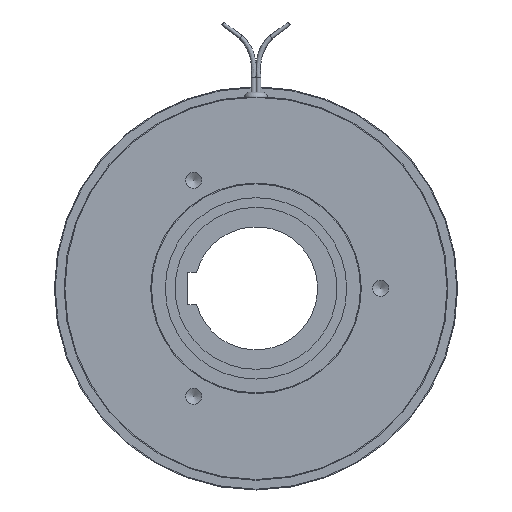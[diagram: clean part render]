
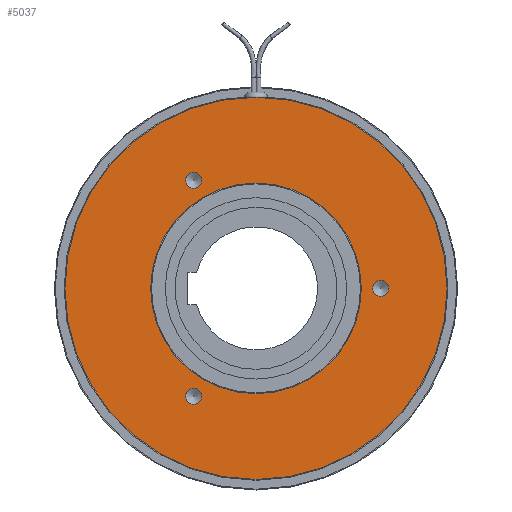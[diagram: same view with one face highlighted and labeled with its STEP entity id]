
A CAD part, left-side view. The second image highlights one B-rep face of the part: STEP entity #5037.
In plain terms, the highlighted planar face has unit normal (-1, 0, 0).
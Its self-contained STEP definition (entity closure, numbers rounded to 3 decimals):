
#315=FACE_BOUND('',#866,.T.);
#316=FACE_BOUND('',#867,.T.);
#317=FACE_BOUND('',#868,.T.);
#318=FACE_BOUND('',#869,.T.);
#383=PLANE('',#5525);
#551=FACE_OUTER_BOUND('',#865,.T.);
#865=EDGE_LOOP('',(#3880,#3881,#3882));
#866=EDGE_LOOP('',(#3883,#3884));
#867=EDGE_LOOP('',(#3885,#3886));
#868=EDGE_LOOP('',(#3887,#3888));
#869=EDGE_LOOP('',(#3889,#3890));
#1753=CIRCLE('',#5518,59.);
#1754=CIRCLE('',#5519,59.);
#1755=CIRCLE('',#5521,32.5);
#1758=CIRCLE('',#5524,32.5);
#1759=CIRCLE('',#5526,59.);
#1760=CIRCLE('',#5527,2.459);
#1761=CIRCLE('',#5528,2.459);
#1762=CIRCLE('',#5529,2.459);
#1763=CIRCLE('',#5530,2.459);
#1764=CIRCLE('',#5531,2.459);
#1765=CIRCLE('',#5532,2.459);
#2220=VERTEX_POINT('',#8397);
#2221=VERTEX_POINT('',#8399);
#2222=VERTEX_POINT('',#8401);
#2226=VERTEX_POINT('',#8428);
#2227=VERTEX_POINT('',#8429);
#2230=VERTEX_POINT('',#8439);
#2231=VERTEX_POINT('',#8440);
#2232=VERTEX_POINT('',#8443);
#2233=VERTEX_POINT('',#8444);
#2234=VERTEX_POINT('',#8447);
#2235=VERTEX_POINT('',#8448);
#2835=EDGE_CURVE('',#2221,#2220,#1753,.T.);
#2836=EDGE_CURVE('',#2222,#2221,#1754,.T.);
#2841=EDGE_CURVE('',#2226,#2227,#1755,.T.);
#2845=EDGE_CURVE('',#2227,#2226,#1758,.T.);
#2846=EDGE_CURVE('',#2220,#2222,#1759,.T.);
#2847=EDGE_CURVE('',#2230,#2231,#1760,.T.);
#2848=EDGE_CURVE('',#2231,#2230,#1761,.T.);
#2849=EDGE_CURVE('',#2232,#2233,#1762,.T.);
#2850=EDGE_CURVE('',#2233,#2232,#1763,.T.);
#2851=EDGE_CURVE('',#2234,#2235,#1764,.T.);
#2852=EDGE_CURVE('',#2235,#2234,#1765,.T.);
#3880=ORIENTED_EDGE('',*,*,#2835,.T.);
#3881=ORIENTED_EDGE('',*,*,#2846,.T.);
#3882=ORIENTED_EDGE('',*,*,#2836,.T.);
#3883=ORIENTED_EDGE('',*,*,#2847,.T.);
#3884=ORIENTED_EDGE('',*,*,#2848,.T.);
#3885=ORIENTED_EDGE('',*,*,#2849,.T.);
#3886=ORIENTED_EDGE('',*,*,#2850,.T.);
#3887=ORIENTED_EDGE('',*,*,#2851,.T.);
#3888=ORIENTED_EDGE('',*,*,#2852,.T.);
#3889=ORIENTED_EDGE('',*,*,#2841,.F.);
#3890=ORIENTED_EDGE('',*,*,#2845,.F.);
#5037=ADVANCED_FACE('',(#551,#315,#316,#317,#318),#383,.T.);
#5518=AXIS2_PLACEMENT_3D('',#8400,#6639,#6640);
#5519=AXIS2_PLACEMENT_3D('',#8402,#6641,#6642);
#5521=AXIS2_PLACEMENT_3D('',#8430,#6648,#6649);
#5524=AXIS2_PLACEMENT_3D('',#8436,#6655,#6656);
#5525=AXIS2_PLACEMENT_3D('',#8437,#6657,#6658);
#5526=AXIS2_PLACEMENT_3D('',#8438,#6659,#6660);
#5527=AXIS2_PLACEMENT_3D('',#8441,#6661,#6662);
#5528=AXIS2_PLACEMENT_3D('',#8442,#6663,#6664);
#5529=AXIS2_PLACEMENT_3D('',#8445,#6665,#6666);
#5530=AXIS2_PLACEMENT_3D('',#8446,#6667,#6668);
#5531=AXIS2_PLACEMENT_3D('',#8449,#6669,#6670);
#5532=AXIS2_PLACEMENT_3D('',#8450,#6671,#6672);
#6639=DIRECTION('center_axis',(-1.,0.,0.));
#6640=DIRECTION('ref_axis',(0.,1.,0.));
#6641=DIRECTION('center_axis',(-1.,0.,0.));
#6642=DIRECTION('ref_axis',(0.,1.,0.));
#6648=DIRECTION('center_axis',(-1.,0.,0.));
#6649=DIRECTION('ref_axis',(0.,1.,0.));
#6655=DIRECTION('center_axis',(-1.,0.,0.));
#6656=DIRECTION('ref_axis',(0.,1.,0.));
#6657=DIRECTION('center_axis',(-1.,0.,0.));
#6658=DIRECTION('ref_axis',(0.,0.,
1.));
#6659=DIRECTION('center_axis',(-1.,0.,0.));
#6660=DIRECTION('ref_axis',(0.,1.,0.));
#6661=DIRECTION('center_axis',(1.,0.,0.));
#6662=DIRECTION('ref_axis',(0.,0.,
1.));
#6663=DIRECTION('center_axis',(1.,0.,0.));
#6664=DIRECTION('ref_axis',(0.,0.,
1.));
#6665=DIRECTION('center_axis',(1.,0.,0.));
#6666=DIRECTION('ref_axis',(0.,0.,
1.));
#6667=DIRECTION('center_axis',(1.,0.,0.));
#6668=DIRECTION('ref_axis',(0.,0.,
1.));
#6669=DIRECTION('center_axis',(1.,0.,0.));
#6670=DIRECTION('ref_axis',(0.,0.,
1.));
#6671=DIRECTION('center_axis',(1.,0.,0.));
#6672=DIRECTION('ref_axis',(0.,0.,
1.));
#8397=CARTESIAN_POINT('',(-17.9,-59.,0.));
#8399=CARTESIAN_POINT('',(-17.9,59.,0.));
#8400=CARTESIAN_POINT('Origin',(-17.9,0.,0.));
#8401=CARTESIAN_POINT('',(-17.9,0.,59.));
#8402=CARTESIAN_POINT('Origin',(-17.9,0.,0.));
#8428=CARTESIAN_POINT('',(-17.9,32.5,0.));
#8429=CARTESIAN_POINT('',(-17.9,-32.5,0.));
#8430=CARTESIAN_POINT('Origin',(-17.9,0.,0.));
#8436=CARTESIAN_POINT('Origin',(-17.9,0.,0.));
#8437=CARTESIAN_POINT('Origin',(-17.9,45.75,0.));
#8438=CARTESIAN_POINT('Origin',(-17.9,0.,0.));
#8439=CARTESIAN_POINT('',(-17.9,19.25,35.8));
#8440=CARTESIAN_POINT('',(-17.9,19.25,30.883));
#8441=CARTESIAN_POINT('Origin',(-17.9,19.25,33.342));
#8442=CARTESIAN_POINT('Origin',(-17.9,19.25,33.342));
#8443=CARTESIAN_POINT('',(-17.9,-38.5,2.459));
#8444=CARTESIAN_POINT('',(-17.9,-38.5,-2.458));
#8445=CARTESIAN_POINT('Origin',(-17.9,-38.5,0.));
#8446=CARTESIAN_POINT('Origin',(-17.9,-38.5,0.));
#8447=CARTESIAN_POINT('',(-17.9,19.25,-30.883));
#8448=CARTESIAN_POINT('',(-17.9,19.25,-35.8));
#8449=CARTESIAN_POINT('Origin',(-17.9,19.25,-33.342));
#8450=CARTESIAN_POINT('Origin',(-17.9,19.25,-33.342));
